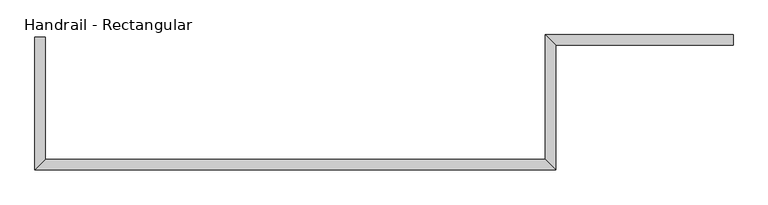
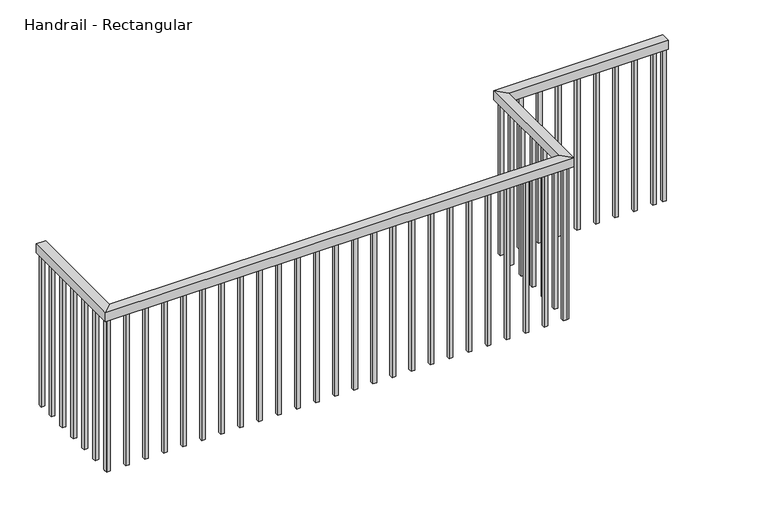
"""IFC4 building model written with IfcOpenShell, lengths in millimetres: railing geometry, Handrail - Rectangular."""

from ifc_helpers import new_model, si_unit, frame, origin, place, context, project, spatial, polyline, outline, extrude, faceted_brep, source, transform, mapped, element, save


def handrail_rectangular_d451aaf2(model_context):
    return source(origin(), model_context, "Body", "SolidModel", [
        faceted_brep([(-16150.6909741, 3305.2793907, 3914.4), (-16150.6909741, 3305.2793907, 3863.6), (-16201.4909741, 3305.2793907, 3863.6), (-16201.4909741, 3305.2793907, 3914.4), (-16150.6909741, 2716.0793907, 3914.4), (-16150.6909741, 2716.0793907, 3863.6), (-16201.4909741, 2665.2793907, 3863.6), (-16201.4909741, 2665.2793907, 3914.4), (-13752.2909741, 2716.0793907, 3914.4), (-13752.2909741, 2716.0793907, 3863.6), (-13701.4909741, 2665.2793907, 3863.6), (-13701.4909741, 2665.2793907, 3914.4), (-13752.2909741, 3316.0793907, 3914.4), (-13752.2909741, 3316.0793907, 3863.6), (-13701.4909741, 3265.2793907, 3863.6), (-13701.4909741, 3265.2793907, 3914.4), (-12849.8909741, 3316.0793907, 3914.4), (-12849.8909741, 3265.2793907, 3914.4), (-12849.8909741, 3265.2793907, 3863.6), (-12849.8909741, 3316.0793907, 3863.6)], [[[0, 1, 2, 3]], [[1, 0, 4, 5]], [[2, 1, 5, 6]], [[3, 2, 6, 7]], [[0, 3, 7, 4]], [[5, 4, 8, 9]], [[6, 5, 9, 10]], [[7, 6, 10, 11]], [[4, 7, 11, 8]], [[9, 8, 12, 13]], [[10, 9, 13, 14]], [[11, 10, 14, 15]], [[8, 11, 15, 12]], [[16, 17, 18, 19]], [[13, 12, 16, 19]], [[14, 13, 19, 18]], [[15, 14, 18, 17]], [[12, 15, 17, 16]]]),
        extrude(outline(polyline([(-12923.6159741, 3300.2043907), (-12904.5659741, 3300.2043907), (-12904.5659741, 3281.1543907), (-12923.6159741, 3281.1543907), (-12923.6159741, 3300.2043907)])), frame((0.0, 0.0, 3000.0), z_axis=(0.0, 0.0, 1.0), x_axis=(1.0, 0.0, 0.0)), (0.0, 0.0, 1.0), 863.6),
        extrude(outline(polyline([(-13025.2159741, 3300.2043907), (-13006.1659741, 3300.2043907), (-13006.1659741, 3281.1543907), (-13025.2159741, 3281.1543907), (-13025.2159741, 3300.2043907)])), frame((0.0, 0.0, 3000.0), z_axis=(0.0, 0.0, 1.0), x_axis=(1.0, 0.0, 0.0)), (0.0, 0.0, 1.0), 863.6),
        extrude(outline(polyline([(-13126.8159741, 3300.2043907), (-13107.7659741, 3300.2043907), (-13107.7659741, 3281.1543907), (-13126.8159741, 3281.1543907), (-13126.8159741, 3300.2043907)])), frame((0.0, 0.0, 3000.0), z_axis=(0.0, 0.0, 1.0), x_axis=(1.0, 0.0, 0.0)), (0.0, 0.0, 1.0), 863.6),
        extrude(outline(polyline([(-13228.4159741, 3300.2043907), (-13209.3659741, 3300.2043907), (-13209.3659741, 3281.1543907), (-13228.4159741, 3281.1543907), (-13228.4159741, 3300.2043907)])), frame((0.0, 0.0, 3000.0), z_axis=(0.0, 0.0, 1.0), x_axis=(1.0, 0.0, 0.0)), (0.0, 0.0, 1.0), 863.6),
        extrude(outline(polyline([(-13330.0159741, 3300.2043907), (-13310.9659741, 3300.2043907), (-13310.9659741, 3281.1543907), (-13330.0159741, 3281.1543907), (-13330.0159741, 3300.2043907)])), frame((0.0, 0.0, 3000.0), z_axis=(0.0, 0.0, 1.0), x_axis=(1.0, 0.0, 0.0)), (0.0, 0.0, 1.0), 863.6),
        extrude(outline(polyline([(-13431.6159741, 3300.2043907), (-13412.5659741, 3300.2043907), (-13412.5659741, 3281.1543907), (-13431.6159741, 3281.1543907), (-13431.6159741, 3300.2043907)])), frame((0.0, 0.0, 3000.0), z_axis=(0.0, 0.0, 1.0), x_axis=(1.0, 0.0, 0.0)), (0.0, 0.0, 1.0), 863.6),
        extrude(outline(polyline([(-13533.2159741, 3300.2043907), (-13514.1659741, 3300.2043907), (-13514.1659741, 3281.1543907), (-13533.2159741, 3281.1543907), (-13533.2159741, 3300.2043907)])), frame((0.0, 0.0, 3000.0), z_axis=(0.0, 0.0, 1.0), x_axis=(1.0, 0.0, 0.0)), (0.0, 0.0, 1.0), 863.6),
        extrude(outline(polyline([(-13634.8159741, 3300.2043907), (-13615.7659741, 3300.2043907), (-13615.7659741, 3281.1543907), (-13634.8159741, 3281.1543907), (-13634.8159741, 3300.2043907)])), frame((0.0, 0.0, 3000.0), z_axis=(0.0, 0.0, 1.0), x_axis=(1.0, 0.0, 0.0)), (0.0, 0.0, 1.0), 863.6),
        extrude(outline(polyline([(-13736.4159741, 3189.1543907), (-13736.4159741, 3208.2043907), (-13717.3659741, 3208.2043907), (-13717.3659741, 3189.1543907), (-13736.4159741, 3189.1543907)])), frame((0.0, 0.0, 3000.0), z_axis=(0.0, 0.0, 1.0), x_axis=(1.0, 0.0, 0.0)), (0.0, 0.0, 1.0), 863.6),
        extrude(outline(polyline([(-13736.4159741, 3087.5543907), (-13736.4159741, 3106.6043907), (-13717.3659741, 3106.6043907), (-13717.3659741, 3087.5543907), (-13736.4159741, 3087.5543907)])), frame((0.0, 0.0, 3000.0), z_axis=(0.0, 0.0, 1.0), x_axis=(1.0, 0.0, 0.0)), (0.0, 0.0, 1.0), 863.6),
        extrude(outline(polyline([(-13736.4159741, 2985.9543907), (-13736.4159741, 3005.0043907), (-13717.3659741, 3005.0043907), (-13717.3659741, 2985.9543907), (-13736.4159741, 2985.9543907)])), frame((0.0, 0.0, 3000.0), z_axis=(0.0, 0.0, 1.0), x_axis=(1.0, 0.0, 0.0)), (0.0, 0.0, 1.0), 863.6),
        extrude(outline(polyline([(-13736.4159741, 2884.3543907), (-13736.4159741, 2903.4043907), (-13717.3659741, 2903.4043907), (-13717.3659741, 2884.3543907), (-13736.4159741, 2884.3543907)])), frame((0.0, 0.0, 3000.0), z_axis=(0.0, 0.0, 1.0), x_axis=(1.0, 0.0, 0.0)), (0.0, 0.0, 1.0), 863.6),
        extrude(outline(polyline([(-13736.4159741, 2782.7543907), (-13736.4159741, 2801.8043907), (-13717.3659741, 2801.8043907), (-13717.3659741, 2782.7543907), (-13736.4159741, 2782.7543907)])), frame((0.0, 0.0, 3000.0), z_axis=(0.0, 0.0, 1.0), x_axis=(1.0, 0.0, 0.0)), (0.0, 0.0, 1.0), 863.6),
        extrude(outline(polyline([(-13747.2159741, 2700.2043907), (-13728.1659741, 2700.2043907), (-13728.1659741, 2681.1543907), (-13747.2159741, 2681.1543907), (-13747.2159741, 2700.2043907)])), frame((0.0, 0.0, 3000.0), z_axis=(0.0, 0.0, 1.0), x_axis=(1.0, 0.0, 0.0)), (0.0, 0.0, 1.0), 863.6),
        extrude(outline(polyline([(-13848.8159741, 2700.2043907), (-13829.7659741, 2700.2043907), (-13829.7659741, 2681.1543907), (-13848.8159741, 2681.1543907), (-13848.8159741, 2700.2043907)])), frame((0.0, 0.0, 3000.0), z_axis=(0.0, 0.0, 1.0), x_axis=(1.0, 0.0, 0.0)), (0.0, 0.0, 1.0), 863.6),
        extrude(outline(polyline([(-13950.4159741, 2700.2043907), (-13931.3659741, 2700.2043907), (-13931.3659741, 2681.1543907), (-13950.4159741, 2681.1543907), (-13950.4159741, 2700.2043907)])), frame((0.0, 0.0, 3000.0), z_axis=(0.0, 0.0, 1.0), x_axis=(1.0, 0.0, 0.0)), (0.0, 0.0, 1.0), 863.6),
        extrude(outline(polyline([(-14052.0159741, 2700.2043907), (-14032.9659741, 2700.2043907), (-14032.9659741, 2681.1543907), (-14052.0159741, 2681.1543907), (-14052.0159741, 2700.2043907)])), frame((0.0, 0.0, 3000.0), z_axis=(0.0, 0.0, 1.0), x_axis=(1.0, 0.0, 0.0)), (0.0, 0.0, 1.0), 863.6),
        extrude(outline(polyline([(-14153.6159741, 2700.2043907), (-14134.5659741, 2700.2043907), (-14134.5659741, 2681.1543907), (-14153.6159741, 2681.1543907), (-14153.6159741, 2700.2043907)])), frame((0.0, 0.0, 3000.0), z_axis=(0.0, 0.0, 1.0), x_axis=(1.0, 0.0, 0.0)), (0.0, 0.0, 1.0), 863.6),
        extrude(outline(polyline([(-14255.2159741, 2700.2043907), (-14236.1659741, 2700.2043907), (-14236.1659741, 2681.1543907), (-14255.2159741, 2681.1543907), (-14255.2159741, 2700.2043907)])), frame((0.0, 0.0, 3000.0), z_axis=(0.0, 0.0, 1.0), x_axis=(1.0, 0.0, 0.0)), (0.0, 0.0, 1.0), 863.6),
        extrude(outline(polyline([(-14356.8159741, 2700.2043907), (-14337.7659741, 2700.2043907), (-14337.7659741, 2681.1543907), (-14356.8159741, 2681.1543907), (-14356.8159741, 2700.2043907)])), frame((0.0, 0.0, 3000.0), z_axis=(0.0, 0.0, 1.0), x_axis=(1.0, 0.0, 0.0)), (0.0, 0.0, 1.0), 863.6),
        extrude(outline(polyline([(-14458.4159741, 2700.2043907), (-14439.3659741, 2700.2043907), (-14439.3659741, 2681.1543907), (-14458.4159741, 2681.1543907), (-14458.4159741, 2700.2043907)])), frame((0.0, 0.0, 3000.0), z_axis=(0.0, 0.0, 1.0), x_axis=(1.0, 0.0, 0.0)), (0.0, 0.0, 1.0), 863.6),
        extrude(outline(polyline([(-14560.0159741, 2700.2043907), (-14540.9659741, 2700.2043907), (-14540.9659741, 2681.1543907), (-14560.0159741, 2681.1543907), (-14560.0159741, 2700.2043907)])), frame((0.0, 0.0, 3000.0), z_axis=(0.0, 0.0, 1.0), x_axis=(1.0, 0.0, 0.0)), (0.0, 0.0, 1.0), 863.6),
        extrude(outline(polyline([(-14661.6159741, 2700.2043907), (-14642.5659741, 2700.2043907), (-14642.5659741, 2681.1543907), (-14661.6159741, 2681.1543907), (-14661.6159741, 2700.2043907)])), frame((0.0, 0.0, 3000.0), z_axis=(0.0, 0.0, 1.0), x_axis=(1.0, 0.0, 0.0)), (0.0, 0.0, 1.0), 863.6),
        extrude(outline(polyline([(-14763.2159741, 2700.2043907), (-14744.1659741, 2700.2043907), (-14744.1659741, 2681.1543907), (-14763.2159741, 2681.1543907), (-14763.2159741, 2700.2043907)])), frame((0.0, 0.0, 3000.0), z_axis=(0.0, 0.0, 1.0), x_axis=(1.0, 0.0, 0.0)), (0.0, 0.0, 1.0), 863.6),
        extrude(outline(polyline([(-14864.8159741, 2700.2043907), (-14845.7659741, 2700.2043907), (-14845.7659741, 2681.1543907), (-14864.8159741, 2681.1543907), (-14864.8159741, 2700.2043907)])), frame((0.0, 0.0, 3000.0), z_axis=(0.0, 0.0, 1.0), x_axis=(1.0, 0.0, 0.0)), (0.0, 0.0, 1.0), 863.6),
        extrude(outline(polyline([(-14966.4159741, 2700.2043907), (-14947.3659741, 2700.2043907), (-14947.3659741, 2681.1543907), (-14966.4159741, 2681.1543907), (-14966.4159741, 2700.2043907)])), frame((0.0, 0.0, 3000.0), z_axis=(0.0, 0.0, 1.0), x_axis=(1.0, 0.0, 0.0)), (0.0, 0.0, 1.0), 863.6),
        extrude(outline(polyline([(-15068.0159741, 2700.2043907), (-15048.9659741, 2700.2043907), (-15048.9659741, 2681.1543907), (-15068.0159741, 2681.1543907), (-15068.0159741, 2700.2043907)])), frame((0.0, 0.0, 3000.0), z_axis=(0.0, 0.0, 1.0), x_axis=(1.0, 0.0, 0.0)), (0.0, 0.0, 1.0), 863.6),
        extrude(outline(polyline([(-15169.6159741, 2700.2043907), (-15150.5659741, 2700.2043907), (-15150.5659741, 2681.1543907), (-15169.6159741, 2681.1543907), (-15169.6159741, 2700.2043907)])), frame((0.0, 0.0, 3000.0), z_axis=(0.0, 0.0, 1.0), x_axis=(1.0, 0.0, 0.0)), (0.0, 0.0, 1.0), 863.6),
        extrude(outline(polyline([(-15271.2159741, 2700.2043907), (-15252.1659741, 2700.2043907), (-15252.1659741, 2681.1543907), (-15271.2159741, 2681.1543907), (-15271.2159741, 2700.2043907)])), frame((0.0, 0.0, 3000.0), z_axis=(0.0, 0.0, 1.0), x_axis=(1.0, 0.0, 0.0)), (0.0, 0.0, 1.0), 863.6),
        extrude(outline(polyline([(-15372.8159741, 2700.2043907), (-15353.7659741, 2700.2043907), (-15353.7659741, 2681.1543907), (-15372.8159741, 2681.1543907), (-15372.8159741, 2700.2043907)])), frame((0.0, 0.0, 3000.0), z_axis=(0.0, 0.0, 1.0), x_axis=(1.0, 0.0, 0.0)), (0.0, 0.0, 1.0), 863.6),
        extrude(outline(polyline([(-15474.4159741, 2700.2043907), (-15455.3659741, 2700.2043907), (-15455.3659741, 2681.1543907), (-15474.4159741, 2681.1543907), (-15474.4159741, 2700.2043907)])), frame((0.0, 0.0, 3000.0), z_axis=(0.0, 0.0, 1.0), x_axis=(1.0, 0.0, 0.0)), (0.0, 0.0, 1.0), 863.6),
        extrude(outline(polyline([(-15576.0159741, 2700.2043907), (-15556.9659741, 2700.2043907), (-15556.9659741, 2681.1543907), (-15576.0159741, 2681.1543907), (-15576.0159741, 2700.2043907)])), frame((0.0, 0.0, 3000.0), z_axis=(0.0, 0.0, 1.0), x_axis=(1.0, 0.0, 0.0)), (0.0, 0.0, 1.0), 863.6),
        extrude(outline(polyline([(-15677.6159741, 2700.2043907), (-15658.5659741, 2700.2043907), (-15658.5659741, 2681.1543907), (-15677.6159741, 2681.1543907), (-15677.6159741, 2700.2043907)])), frame((0.0, 0.0, 3000.0), z_axis=(0.0, 0.0, 1.0), x_axis=(1.0, 0.0, 0.0)), (0.0, 0.0, 1.0), 863.6),
        extrude(outline(polyline([(-15779.2159741, 2700.2043907), (-15760.1659741, 2700.2043907), (-15760.1659741, 2681.1543907), (-15779.2159741, 2681.1543907), (-15779.2159741, 2700.2043907)])), frame((0.0, 0.0, 3000.0), z_axis=(0.0, 0.0, 1.0), x_axis=(1.0, 0.0, 0.0)), (0.0, 0.0, 1.0), 863.6),
        extrude(outline(polyline([(-15880.8159741, 2700.2043907), (-15861.7659741, 2700.2043907), (-15861.7659741, 2681.1543907), (-15880.8159741, 2681.1543907), (-15880.8159741, 2700.2043907)])), frame((0.0, 0.0, 3000.0), z_axis=(0.0, 0.0, 1.0), x_axis=(1.0, 0.0, 0.0)), (0.0, 0.0, 1.0), 863.6),
        extrude(outline(polyline([(-15982.4159741, 2700.2043907), (-15963.3659741, 2700.2043907), (-15963.3659741, 2681.1543907), (-15982.4159741, 2681.1543907), (-15982.4159741, 2700.2043907)])), frame((0.0, 0.0, 3000.0), z_axis=(0.0, 0.0, 1.0), x_axis=(1.0, 0.0, 0.0)), (0.0, 0.0, 1.0), 863.6),
        extrude(outline(polyline([(-16084.0159741, 2700.2043907), (-16064.9659741, 2700.2043907), (-16064.9659741, 2681.1543907), (-16084.0159741, 2681.1543907), (-16084.0159741, 2700.2043907)])), frame((0.0, 0.0, 3000.0), z_axis=(0.0, 0.0, 1.0), x_axis=(1.0, 0.0, 0.0)), (0.0, 0.0, 1.0), 863.6),
        extrude(outline(polyline([(-16166.5659741, 2705.2043907), (-16166.5659741, 2686.1543907), (-16185.6159741, 2686.1543907), (-16185.6159741, 2705.2043907), (-16166.5659741, 2705.2043907)])), frame((0.0, 0.0, 3000.0), z_axis=(0.0, 0.0, 1.0), x_axis=(1.0, 0.0, 0.0)), (0.0, 0.0, 1.0), 863.6),
        extrude(outline(polyline([(-16166.5659741, 2806.8043907), (-16166.5659741, 2787.7543907), (-16185.6159741, 2787.7543907), (-16185.6159741, 2806.8043907), (-16166.5659741, 2806.8043907)])), frame((0.0, 0.0, 3000.0), z_axis=(0.0, 0.0, 1.0), x_axis=(1.0, 0.0, 0.0)), (0.0, 0.0, 1.0), 863.6),
        extrude(outline(polyline([(-16166.5659741, 2908.4043907), (-16166.5659741, 2889.3543907), (-16185.6159741, 2889.3543907), (-16185.6159741, 2908.4043907), (-16166.5659741, 2908.4043907)])), frame((0.0, 0.0, 3000.0), z_axis=(0.0, 0.0, 1.0), x_axis=(1.0, 0.0, 0.0)), (0.0, 0.0, 1.0), 863.6),
        extrude(outline(polyline([(-16166.5659741, 3010.0043907), (-16166.5659741, 2990.9543907), (-16185.6159741, 2990.9543907), (-16185.6159741, 3010.0043907), (-16166.5659741, 3010.0043907)])), frame((0.0, 0.0, 3000.0), z_axis=(0.0, 0.0, 1.0), x_axis=(1.0, 0.0, 0.0)), (0.0, 0.0, 1.0), 863.6),
        extrude(outline(polyline([(-16166.5659741, 3111.6043907), (-16166.5659741, 3092.5543907), (-16185.6159741, 3092.5543907), (-16185.6159741, 3111.6043907), (-16166.5659741, 3111.6043907)])), frame((0.0, 0.0, 3000.0), z_axis=(0.0, 0.0, 1.0), x_axis=(1.0, 0.0, 0.0)), (0.0, 0.0, 1.0), 863.6),
        extrude(outline(polyline([(-16166.5659741, 3213.2043907), (-16166.5659741, 3194.1543907), (-16185.6159741, 3194.1543907), (-16185.6159741, 3213.2043907), (-16166.5659741, 3213.2043907)])), frame((0.0, 0.0, 3000.0), z_axis=(0.0, 0.0, 1.0), x_axis=(1.0, 0.0, 0.0)), (0.0, 0.0, 1.0), 863.6),
        extrude(outline(polyline([(-13736.4159741, 3281.1543907), (-13736.4159741, 3300.2043907), (-13717.3659741, 3300.2043907), (-13717.3659741, 3281.1543907), (-13736.4159741, 3281.1543907)])), frame((0.0, 0.0, 3000.0), z_axis=(0.0, 0.0, 1.0), x_axis=(1.0, 0.0, 0.0)), (0.0, 0.0, 1.0), 863.6),
        extrude(outline(polyline([(-13736.4159741, 2700.2043907), (-13717.3659741, 2700.2043907), (-13717.3659741, 2681.1543907), (-13736.4159741, 2681.1543907), (-13736.4159741, 2700.2043907)])), frame((0.0, 0.0, 3000.0), z_axis=(0.0, 0.0, 1.0), x_axis=(1.0, 0.0, 0.0)), (0.0, 0.0, 1.0), 863.6),
        extrude(outline(polyline([(-16166.5659741, 2700.2043907), (-16166.5659741, 2681.1543907), (-16185.6159741, 2681.1543907), (-16185.6159741, 2700.2043907), (-16166.5659741, 2700.2043907)])), frame((0.0, 0.0, 3000.0), z_axis=(0.0, 0.0, 1.0), x_axis=(1.0, 0.0, 0.0)), (0.0, 0.0, 1.0), 863.6),
        extrude(outline(polyline([(-12868.9409741, 3300.2043907), (-12849.8909741, 3300.2043907), (-12849.8909741, 3281.1543907), (-12868.9409741, 3281.1543907), (-12868.9409741, 3300.2043907)])), frame((0.0, 0.0, 3000.0), z_axis=(0.0, 0.0, 1.0), x_axis=(1.0, 0.0, 0.0)), (0.0, 0.0, 1.0), 863.6),
        extrude(outline(polyline([(-16166.5659741, 3305.2793907), (-16166.5659741, 3286.2293907), (-16185.6159741, 3286.2293907), (-16185.6159741, 3305.2793907), (-16166.5659741, 3305.2793907)])), frame((0.0, 0.0, 3000.0), z_axis=(0.0, 0.0, 1.0), x_axis=(1.0, 0.0, 0.0)), (0.0, 0.0, 1.0), 863.6),
    ])


if __name__ == "__main__":
    model = new_model("IFC4")
    model_context = context("Model", 3, world=origin())
    ifc_project = project(units=[si_unit("LENGTHUNIT", "METRE", prefix="MILLI")], contexts=[model_context])
    site = spatial("IfcSite", under=ifc_project)
    building = spatial("IfcBuilding", under=site)
    placement = place(None, origin())
    handrail_rectangular_shape = handrail_rectangular_d451aaf2(model_context)
    element("IfcRailing", 1, ObjectType="Handrail - Rectangular", at=placement, inside=building, context=model_context, shape_type="MappedRepresentation", body=[
        mapped(handrail_rectangular_shape, transform((0.0, 0.0, 0.0), x_axis=(1.0, 0.0, 0.0), y_axis=(0.0, 1.0, 0.0), z_axis=(0.0, 0.0, 1.0))),
    ])
    save(model, "model.ifc")
